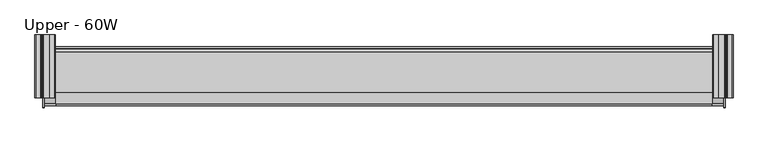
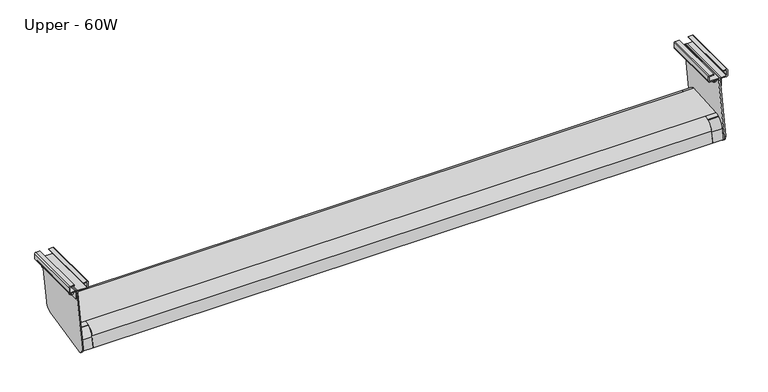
"""IFC4 building model written with IfcOpenShell, lengths in millimetres: furniture geometry, Steelcase Turnstone - Bivi - Accessories - Footshelf : Upper - 60W."""

from ifc_helpers import new_model, si_unit, point, frame, frame_2d, origin, place, context, project, spatial, polyline, circle_curve, trimmed, segment, composite_curve, outline, extrude, source, transform, mapped, element, save
from ifc_brep_helpers import plane_surface, cylinder_surface, revolved_surface, advanced_brep


def upper_60w_f62813fc(model_context):
    return source(origin(), model_context, "Body", "SolidModel", [
        advanced_brep(
        [(1498.5970434, -330.5631686, 405.2178221), (1498.5970434, -335.2717608, 378.5140687), (1498.5970434, -331.5529865, 377.9250727), (1498.5970434, -327.344341, 401.7934874), (1498.5970434, -313.6889042, 420.7007017), (1498.5970434, -315.8474061, 424.9938126), (25.4029566, -327.344341, 401.7934874), (25.4029566, -331.5529865, 377.9250727), (25.4029566, -335.2717608, 378.5140687), (25.4029566, -330.5631686, 405.2178221), (25.4029566, -315.8474061, 424.9938126), (25.4029566, -313.6889042, 420.7007017), (1524.0, -205.119935, 404.6518997), (1524.0, -209.1468112, 405.0751414), (0.0, -209.1468112, 405.0751414), (0.0, -205.119935, 404.6518997), (25.4029566, -203.2275084, 422.6571359), (1498.5970434, -203.2275084, 422.6571359), (1524.0, -203.2275084, 422.6571359), (0.0, -203.2275084, 422.6571359), (25.4029566, -213.9683536, 433.8305657), (1498.5970434, -213.9683536, 433.8305657), (0.0, -213.9683536, 433.8305657), (0.0, -305.2969526, 427.8633459), (25.4029566, -305.2969526, 427.8633459), (1498.5970434, -305.2969526, 427.8633459), (1524.0, -305.2969526, 427.8633459), (1524.0, -213.9683536, 433.8305657), (25.4029566, -302.7385546, 423.8470835), (1498.5970434, -302.7385546, 423.8470835), (0.0, -302.7385546, 423.8470835), (0.0, -215.2869038, 429.5609916), (25.4029566, -215.2869038, 429.5609916), (1498.5970434, -215.2869038, 429.5609916), (1524.0, -215.2869038, 429.5609916), (1524.0, -302.7385546, 423.8470835), (25.4029566, -207.4320707, 421.3898072), (1498.5970434, -207.4320707, 421.3898072), (0.0, -207.4320707, 421.3898072), (1524.0, -207.4320707, 421.3898072), (1524.0, -315.8474061, 424.9938126), (1524.0, -313.6889042, 420.7007017), (0.0, -313.6889042, 420.7007017), (0.0, -315.8474061, 424.9938126)],
        [
            (0, 1),
            (1, 2),
            (2, 3),
            (3, 4, circle_curve(frame((1498.5970434, -300.9940412, 397.1472186), z_axis=(-1.0, 0.0, 0.0), x_axis=(0.0, 1.0, 0.0)), 26.7567957)),
            (4, 5),
            (5, 0, circle_curve(frame((1498.5970434, -303.5056158, 400.4468455), z_axis=(1.0, 0.0, 0.0), x_axis=(0.0, 1.0, 0.0)), 27.4749592)),
            (6, 7),
            (7, 8),
            (8, 9),
            (9, 10, circle_curve(frame((25.4029566, -303.5056158, 400.4468455), z_axis=(-1.0, 0.0, 0.0), x_axis=(0.0, 1.0, 0.0)), 27.4749592)),
            (10, 11),
            (11, 6, circle_curve(frame((25.4029566, -300.9940412, 397.1472186), z_axis=(1.0, 0.0, 0.0), x_axis=(0.0, 1.0, 0.0)), 26.7567957)),
            (12, 13),
            (13, 14),
            (14, 15),
            (15, 12),
            (16, 17),
            (17, 18),
            (18, 12),
            (15, 19),
            (19, 16),
            (16, 20, circle_curve(frame((25.4029566, -213.3075275, 423.7165886), z_axis=(1.0, 0.0, 0.0), x_axis=(0.0, 1.0, 0.0)), 10.1355426)),
            (20, 21),
            (21, 17, circle_curve(frame((1498.5970434, -213.3075275, 423.7165886), z_axis=(-1.0, 0.0, 0.0), x_axis=(0.0, 1.0, 0.0)), 10.1355426)),
            (20, 22),
            (22, 23),
            (23, 24),
            (24, 25),
            (25, 26),
            (26, 27),
            (27, 21),
            (24, 10, circle_curve(frame((25.4029566, -303.5056158, 400.4468455), z_axis=(1.0, 0.0, 0.0), x_axis=(0.0, 1.0, 0.0)), 27.4749592)),
            (9, 0),
            (5, 25, circle_curve(frame((1498.5970434, -303.5056158, 400.4468455), z_axis=(-1.0, 0.0, 0.0), x_axis=(0.0, 1.0, 0.0)), 27.4749592)),
            (8, 1),
            (7, 2),
            (6, 3),
            (11, 28, circle_curve(frame((25.4029566, -300.9940412, 397.1472186), z_axis=(-1.0, 0.0, 0.0), x_axis=(0.0, 1.0, 0.0)), 26.7567957)),
            (28, 29),
            (29, 4, circle_curve(frame((1498.5970434, -300.9940412, 397.1472186), z_axis=(1.0, 0.0, 0.0), x_axis=(0.0, 1.0, 0.0)), 26.7567957)),
            (28, 30),
            (30, 31),
            (31, 32),
            (32, 33),
            (33, 34),
            (34, 35),
            (35, 29),
            (32, 36, circle_curve(frame((25.4029566, -214.8036384, 422.1645902), z_axis=(-1.0, 0.0, 0.0), x_axis=(0.0, 1.0, 0.0)), 7.4121724)),
            (36, 37),
            (37, 33, circle_curve(frame((1498.5970434, -214.8036384, 422.1645902), z_axis=(1.0, 0.0, 0.0), x_axis=(0.0, 1.0, 0.0)), 7.4121724)),
            (36, 38),
            (38, 14),
            (13, 39),
            (39, 37),
            (18, 27, circle_curve(frame((1524.0, -213.3075275, 423.7165886), z_axis=(1.0, 0.0, 0.0), x_axis=(0.0, 1.0, 0.0)), 10.1355426)),
            (26, 40, circle_curve(frame((1524.0, -303.5056158, 400.4468455), z_axis=(1.0, 0.0, 0.0), x_axis=(0.0, 1.0, 0.0)), 27.4749592)),
            (40, 41),
            (41, 35, circle_curve(frame((1524.0, -300.9940412, 397.1472186), z_axis=(-1.0, 0.0, 0.0), x_axis=(0.0, 1.0, 0.0)), 26.7567957)),
            (34, 39, circle_curve(frame((1524.0, -214.8036384, 422.1645902), z_axis=(-1.0, 0.0, 0.0), x_axis=(0.0, 1.0, 0.0)), 7.4121724)),
            (5, 40),
            (41, 4),
            (38, 31, circle_curve(frame((0.0, -214.8036384, 422.1645902), z_axis=(1.0, 0.0, 0.0), x_axis=(0.0, 1.0, 0.0)), 7.4121724)),
            (30, 42, circle_curve(frame((0.0, -300.9940412, 397.1472186), z_axis=(1.0, 0.0, 0.0), x_axis=(0.0, 1.0, 0.0)), 26.7567957)),
            (42, 43),
            (43, 23, circle_curve(frame((0.0, -303.5056158, 400.4468455), z_axis=(-1.0, 0.0, 0.0), x_axis=(0.0, 1.0, 0.0)), 27.4749592)),
            (22, 19, circle_curve(frame((0.0, -213.3075275, 423.7165886), z_axis=(-1.0, 0.0, 0.0), x_axis=(0.0, 1.0, 0.0)), 10.1355426)),
            (43, 10),
            (11, 42),
        ],
        [
            plane_surface(frame((1498.5970434, -205.119935, 404.6518997), z_axis=(1.0, 0.0, 0.0), x_axis=(0.0, 0.9945218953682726, -0.10452846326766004))),
            plane_surface(frame((25.4029566, -205.119935, 404.6518997), z_axis=(-1.0, 0.0, 0.0), x_axis=(0.0, -0.9945218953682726, 0.10452846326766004))),
            plane_surface(frame((1498.5970434, -209.1468112, 405.0751414), z_axis=(0.0, -0.10452846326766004, -0.9945218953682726), x_axis=(-1.0, 0.0, 0.0))),
            plane_surface(frame((1498.5970434, -205.119935, 404.6518997), z_axis=(0.0, 0.9945218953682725, -0.10452846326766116), x_axis=(-1.0, 0.0, 0.0))),
            cylinder_surface(frame((25.4029566, -213.3075275, 423.7165886), z_axis=(1.0, 0.0, 0.0), x_axis=(0.0, 1.0, 0.0)), 10.1355426),
            plane_surface(frame((1498.5970434, -213.9683536, 433.8305657), z_axis=(0.0, -0.06519889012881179, 0.9978722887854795), x_axis=(-1.0, 0.0, 0.0))),
            cylinder_surface(frame((25.4029566, -303.5056158, 400.4468455), z_axis=(1.0, 0.0, 0.0), x_axis=(0.0, 1.0, 0.0)), 27.4749592),
            plane_surface(frame((1498.5970434, -330.5631686, 405.2178221), z_axis=(0.0, -0.9848077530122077, 0.17364817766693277), x_axis=(-1.0, 0.0, 0.0))),
            plane_surface(frame((1498.5970434, -335.2717608, 378.5140687), z_axis=(0.0, -0.15643446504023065, -0.9876883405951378), x_axis=(-1.0, 0.0, 0.0))),
            plane_surface(frame((1498.5970434, -331.5529865, 377.9250727), z_axis=(0.0, 0.9848077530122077, -0.17364817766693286), x_axis=(-1.0, 0.0, 0.0))),
            revolved_surface(polyline([(25.4029566, -274.23724550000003, 397.1472186), (1498.5970434, -274.23724550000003, 397.1472186)]), (25.4029566, -300.9940412, 397.1472186), (-1.0, 0.0, 0.0)),
            plane_surface(frame((1498.5970434, -302.7385546, 423.8470835), z_axis=(0.0, 0.06519889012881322, -0.9978722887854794), x_axis=(-1.0, 0.0, 0.0))),
            revolved_surface(polyline([(25.4029566, -207.391466, 422.1645902), (1498.5970434, -207.391466, 422.1645902)]), (25.4029566, -214.8036384, 422.1645902), (-1.0, 0.0, 0.0)),
            plane_surface(frame((1498.5970434, -207.4320707, 421.3898072), z_axis=(0.0, -0.9945218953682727, 0.10452846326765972), x_axis=(-1.0, 0.0, 0.0))),
            plane_surface(frame((1524.0, -209.1468112, 405.0751414), z_axis=(1.0, 0.0, 0.0), x_axis=(0.0, -0.10452846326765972, -0.9945218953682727))),
            cylinder_surface(frame((1524.0, -213.3075275, 423.7165886), z_axis=(-1.0, 0.0, 0.0), x_axis=(0.0, 1.0, 0.0)), 10.1355426),
            cylinder_surface(frame((1524.0, -303.5056158, 400.4468455), z_axis=(-1.0, 0.0, 0.0), x_axis=(0.0, 1.0, 0.0)), 27.4749592),
            revolved_surface(polyline([(1524.0, -274.23724550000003, 397.1472186), (1498.5970434, -274.23724550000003, 397.1472186)]), (1524.0, -300.9940412, 397.1472186), (1.0, 0.0, 0.0)),
            revolved_surface(polyline([(1524.0, -207.391466, 422.1645902), (1498.5970434, -207.391466, 422.1645902)]), (1524.0, -214.8036384, 422.1645902), (1.0, 0.0, 0.0)),
            plane_surface(frame((1498.5970434, -313.6889042, 420.7007017), z_axis=(0.0, -0.8934305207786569, -0.44920140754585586), x_axis=(1.0, 0.0, 0.0))),
            plane_surface(frame((0.0, -205.119935, 404.6518997), z_axis=(-1.0, 0.0, 0.0), x_axis=(0.0, -0.9945218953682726, 0.10452846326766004))),
            cylinder_surface(frame((0.0, -213.3075275, 423.7165886), z_axis=(1.0, 0.0, 0.0), x_axis=(0.0, 1.0, 0.0)), 10.1355426),
            cylinder_surface(frame((0.0, -303.5056158, 400.4468455), z_axis=(1.0, 0.0, 0.0), x_axis=(0.0, 1.0, 0.0)), 27.4749592),
            revolved_surface(polyline([(0.0, -274.23724550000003, 397.1472186), (25.4029566, -274.23724550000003, 397.1472186)]), (0.0, -300.9940412, 397.1472186), (-1.0, 0.0, 0.0)),
            revolved_surface(polyline([(0.0, -207.391466, 422.1645902), (25.4029566, -207.391466, 422.1645902)]), (0.0, -214.8036384, 422.1645902), (-1.0, 0.0, 0.0)),
            plane_surface(frame((25.4029566, -315.8474061, 424.9938126), z_axis=(0.0, -0.8934305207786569, -0.44920140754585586), x_axis=(-1.0, 0.0, 0.0))),
        ],
        [
            (0, [[1, 2, 3, 4, 5, 6]]),
            (1, [[7, 8, 9, 10, 11, 12]]),
            (2, [[13, 14, 15, 16]]),
            (3, [[17, 18, 19, -16, 20, 21]]),
            (4, [[-17, 22, 23, 24]]),
            (5, [[-23, 25, 26, 27, 28, 29, 30, 31]]),
            (6, [[-28, 32, -10, 33, -6, 34]]),
            (7, [[-1, -33, -9, 35]]),
            (8, [[-2, -35, -8, 36]]),
            (9, [[-3, -36, -7, 37]]),
            (10, [[-37, -12, 38, 39, 40, -4]]),
            (11, [[-39, 41, 42, 43, 44, 45, 46, 47]]),
            (12, [[-44, 48, 49, 50]]),
            (13, [[-49, 51, 52, -14, 53, 54]]),
            (14, [[-13, -19, 55, -30, 56, 57, 58, -46, 59, -53]]),
            (15, [[-55, -18, -24, -31]]),
            (16, [[-56, -29, -34, 60]]),
            (17, [[-58, 61, -40, -47]]),
            (18, [[-59, -45, -50, -54]]),
            (19, [[-57, -60, -5, -61]]),
            (20, [[-52, 62, -42, 63, 64, 65, -26, 66, -20, -15]]),
            (21, [[-66, -25, -22, -21]]),
            (22, [[-65, 67, -32, -27]]),
            (23, [[-63, -41, -38, 68]]),
            (24, [[-62, -51, -48, -43]]),
            (25, [[-64, -68, -11, -67]]),
        ],
    ),
        advanced_brep(
        [(1529.4732124, -301.9506853, 510.0029956), (1529.4732124, -301.9506853, 515.6450881), (1529.4732124, -301.9506853, 504.3609031), (1532.8407408, -301.9506853, 515.6450881), (1532.8407408, -301.9506853, 504.3609031), (1532.8407408, -301.9506853, 513.3891575), (1532.8407408, -301.9506853, 506.6168337), (1535.8872105, -301.9506853, 513.3891575), (1535.8872105, -301.9506853, 506.6168337), (1535.8872105, -301.9506853, 510.0029956)],
        [
            (0, 1),
            (1, 2, circle_curve(frame((1529.4732124, -301.9506853, 510.0029956), z_axis=(-1.0, 0.0, 0.0), x_axis=(0.0, 0.0, 1.0)), 5.6420925)),
            (2, 0),
            (2, 1, circle_curve(frame((1529.4732124, -301.9506853, 510.0029956), z_axis=(-1.0, 0.0, 0.0), x_axis=(0.0, 0.0, 1.0)), 5.6420925)),
            (1, 3),
            (3, 4, circle_curve(frame((1532.8407408, -301.9506853, 510.0029956), z_axis=(-1.0, 0.0, 0.0), x_axis=(0.0, 0.0, 1.0)), 5.6420925)),
            (4, 2),
            (4, 3, circle_curve(frame((1532.8407408, -301.9506853, 510.0029956), z_axis=(-1.0, 0.0, 0.0), x_axis=(0.0, 0.0, 1.0)), 5.6420925)),
            (3, 5),
            (5, 6, circle_curve(frame((1532.8407408, -301.9506853, 510.0029956), z_axis=(-1.0, 0.0, 0.0), x_axis=(0.0, 0.0, 1.0)), 3.3861619)),
            (6, 4),
            (6, 5, circle_curve(frame((1532.8407408, -301.9506853, 510.0029956), z_axis=(-1.0, 0.0, 0.0), x_axis=(0.0, 0.0, 1.0)), 3.3861619)),
            (5, 7),
            (7, 8, circle_curve(frame((1535.8872105, -301.9506853, 510.0029956), z_axis=(-1.0, 0.0, 0.0), x_axis=(0.0, 0.0, 1.0)), 3.3861619)),
            (8, 6),
            (8, 7, circle_curve(frame((1535.8872105, -301.9506853, 510.0029956), z_axis=(-1.0, 0.0, 0.0), x_axis=(0.0, 0.0, 1.0)), 3.3861619)),
            (7, 9),
            (9, 8),
        ],
        [
            plane_surface(frame((1529.4732124, -301.9506853, 510.0029956), z_axis=(-1.0, 0.0, 0.0), x_axis=(0.0, 0.0, 1.0))),
            cylinder_surface(frame((1532.6802114, -301.9506853, 510.0029956), z_axis=(-1.0, 0.0, 0.0), x_axis=(0.0, 0.0, 1.0)), 5.6420925),
            plane_surface(frame((1532.8407408, -301.9506853, 510.0029956), z_axis=(1.0, 0.0, 0.0), x_axis=(0.0, 0.0, 1.0))),
            cylinder_surface(frame((1532.6802114, -301.9506853, 510.0029956), z_axis=(-1.0, 0.0, 0.0), x_axis=(0.0, 0.0, 1.0)), 3.3861619),
            plane_surface(frame((1535.8872105, -301.9506853, 510.0029956), z_axis=(1.0, 0.0, 0.0), x_axis=(0.0, 0.0, 1.0))),
        ],
        [
            (0, [[1, 2, 3]]),
            (0, [[-3, 4, -1]]),
            (1, [[-2, 5, 6, 7]]),
            (1, [[-4, -7, 8, -5]]),
            (2, [[-6, 9, 10, 11]]),
            (2, [[-8, -11, 12, -9]]),
            (3, [[-10, 13, 14, 15]]),
            (3, [[-12, -15, 16, -13]]),
            (4, [[-14, 17, 18]]),
            (4, [[-16, -18, -17]]),
        ],
    ),
        advanced_brep(
        [(1516.8372105, -301.9506853, 506.6168337), (1516.8372105, -301.9506853, 513.3891575), (1519.682967, -301.9506853, 513.3891575), (1519.682967, -301.9506853, 506.6168337), (1519.682967, -301.9506853, 515.6450881), (1519.682967, -301.9506853, 504.3609031), (1524.0, -301.9506853, 515.6450881), (1524.0, -301.9506853, 504.3609031), (1524.0, -301.9506853, 510.0029956), (1516.8372105, -301.9506853, 510.0029956)],
        [
            (0, 1, circle_curve(frame((1516.8372105, -301.9506853, 510.0029956), z_axis=(1.0, 0.0, 0.0), x_axis=(0.0, 0.0, 1.0)), 3.3861619)),
            (1, 2),
            (2, 3, circle_curve(frame((1519.682967, -301.9506853, 510.0029956), z_axis=(-1.0, 0.0, 0.0), x_axis=(0.0, 0.0, 1.0)), 3.3861619)),
            (3, 0),
            (1, 0, circle_curve(frame((1516.8372105, -301.9506853, 510.0029956), z_axis=(1.0, 0.0, 0.0), x_axis=(0.0, 0.0, 1.0)), 3.3861619)),
            (3, 2, circle_curve(frame((1519.682967, -301.9506853, 510.0029956), z_axis=(-1.0, 0.0, 0.0), x_axis=(0.0, 0.0, 1.0)), 3.3861619)),
            (2, 4),
            (4, 5, circle_curve(frame((1519.682967, -301.9506853, 510.0029956), z_axis=(-1.0, 0.0, 0.0), x_axis=(0.0, 0.0, 1.0)), 5.6420925)),
            (5, 3),
            (5, 4, circle_curve(frame((1519.682967, -301.9506853, 510.0029956), z_axis=(-1.0, 0.0, 0.0), x_axis=(0.0, 0.0, 1.0)), 5.6420925)),
            (4, 6),
            (6, 7, circle_curve(frame((1524.0, -301.9506853, 510.0029956), z_axis=(-1.0, 0.0, 0.0), x_axis=(0.0, 0.0, 1.0)), 5.6420925)),
            (7, 5),
            (7, 6, circle_curve(frame((1524.0, -301.9506853, 510.0029956), z_axis=(-1.0, 0.0, 0.0), x_axis=(0.0, 0.0, 1.0)), 5.6420925)),
            (6, 8),
            (8, 7),
            (9, 1),
            (0, 9),
        ],
        [
            cylinder_surface(frame((1532.6802114, -301.9506853, 510.0029956), z_axis=(-1.0, 0.0, 0.0), x_axis=(0.0, 0.0, 1.0)), 3.3861619),
            plane_surface(frame((1519.682967, -301.9506853, 510.0029956), z_axis=(-1.0, 0.0, 0.0), x_axis=(0.0, 0.0, 1.0))),
            cylinder_surface(frame((1532.6802114, -301.9506853, 510.0029956), z_axis=(-1.0, 0.0, 0.0), x_axis=(0.0, 0.0, 1.0)), 5.6420925),
            plane_surface(frame((1524.0, -301.9506853, 510.0029956), z_axis=(1.0, 0.0, 0.0), x_axis=(0.0, 0.0, 1.0))),
            plane_surface(frame((1516.8372105, -301.9506853, 510.0029956), z_axis=(-1.0, 0.0, 0.0), x_axis=(0.0, 0.0, 1.0))),
        ],
        [
            (0, [[1, 2, 3, 4]]),
            (0, [[5, -4, 6, -2]]),
            (1, [[-3, 7, 8, 9]]),
            (1, [[-6, -9, 10, -7]]),
            (2, [[-8, 11, 12, 13]]),
            (2, [[-10, -13, 14, -11]]),
            (3, [[-12, 15, 16]]),
            (3, [[-14, -16, -15]]),
            (4, [[17, -1, 18]]),
            (4, [[-18, -5, -17]]),
        ],
    ),
        advanced_brep(
        [(1529.4732124, -191.690625, 510.0029956), (1529.4732124, -191.690625, 515.6450881), (1529.4732124, -191.690625, 504.3609031), (1532.8407408, -191.690625, 515.6450881), (1532.8407408, -191.690625, 504.3609031), (1532.8407408, -191.690625, 513.3891575), (1532.8407408, -191.690625, 506.6168337), (1535.8872105, -191.690625, 513.3891575), (1535.8872105, -191.690625, 506.6168337), (1535.8872105, -191.690625, 510.0029956)],
        [
            (0, 1),
            (1, 2, circle_curve(frame((1529.4732124, -191.690625, 510.0029956), z_axis=(-1.0, 0.0, 0.0), x_axis=(0.0, 0.0, 1.0)), 5.6420925)),
            (2, 0),
            (2, 1, circle_curve(frame((1529.4732124, -191.690625, 510.0029956), z_axis=(-1.0, 0.0, 0.0), x_axis=(0.0, 0.0, 1.0)), 5.6420925)),
            (1, 3),
            (3, 4, circle_curve(frame((1532.8407408, -191.690625, 510.0029956), z_axis=(-1.0, 0.0, 0.0), x_axis=(0.0, 0.0, 1.0)), 5.6420925)),
            (4, 2),
            (4, 3, circle_curve(frame((1532.8407408, -191.690625, 510.0029956), z_axis=(-1.0, 0.0, 0.0), x_axis=(0.0, 0.0, 1.0)), 5.6420925)),
            (3, 5),
            (5, 6, circle_curve(frame((1532.8407408, -191.690625, 510.0029956), z_axis=(-1.0, 0.0, 0.0), x_axis=(0.0, 0.0, 1.0)), 3.3861619)),
            (6, 4),
            (6, 5, circle_curve(frame((1532.8407408, -191.690625, 510.0029956), z_axis=(-1.0, 0.0, 0.0), x_axis=(0.0, 0.0, 1.0)), 3.3861619)),
            (5, 7),
            (7, 8, circle_curve(frame((1535.8872105, -191.690625, 510.0029956), z_axis=(-1.0, 0.0, 0.0), x_axis=(0.0, 0.0, 1.0)), 3.3861619)),
            (8, 6),
            (8, 7, circle_curve(frame((1535.8872105, -191.690625, 510.0029956), z_axis=(-1.0, 0.0, 0.0), x_axis=(0.0, 0.0, 1.0)), 3.3861619)),
            (7, 9),
            (9, 8),
        ],
        [
            plane_surface(frame((1529.4732124, -191.690625, 510.0029956), z_axis=(-1.0, 0.0, 0.0), x_axis=(0.0, 0.0, 1.0))),
            cylinder_surface(frame((1532.6802114, -191.690625, 510.0029956), z_axis=(-1.0, 0.0, 0.0), x_axis=(0.0, 0.0, 1.0)), 5.6420925),
            plane_surface(frame((1532.8407408, -191.690625, 510.0029956), z_axis=(1.0, 0.0, 0.0), x_axis=(0.0, 0.0, 1.0))),
            cylinder_surface(frame((1532.6802114, -191.690625, 510.0029956), z_axis=(-1.0, 0.0, 0.0), x_axis=(0.0, 0.0, 1.0)), 3.3861619),
            plane_surface(frame((1535.8872105, -191.690625, 510.0029956), z_axis=(1.0, 0.0, 0.0), x_axis=(0.0, 0.0, 1.0))),
        ],
        [
            (0, [[1, 2, 3]]),
            (0, [[-3, 4, -1]]),
            (1, [[-2, 5, 6, 7]]),
            (1, [[-4, -7, 8, -5]]),
            (2, [[-6, 9, 10, 11]]),
            (2, [[-8, -11, 12, -9]]),
            (3, [[-10, 13, 14, 15]]),
            (3, [[-12, -15, 16, -13]]),
            (4, [[-14, 17, 18]]),
            (4, [[-16, -18, -17]]),
        ],
    ),
        advanced_brep(
        [(1516.8372105, -191.690625, 506.6168337), (1516.8372105, -191.690625, 513.3891575), (1519.682967, -191.690625, 513.3891575), (1519.682967, -191.690625, 506.6168337), (1519.682967, -191.690625, 515.6450881), (1519.682967, -191.690625, 504.3609031), (1524.0, -191.690625, 515.6450881), (1524.0, -191.690625, 504.3609031), (1524.0, -191.690625, 510.0029956), (1516.8372105, -191.690625, 510.0029956)],
        [
            (0, 1, circle_curve(frame((1516.8372105, -191.690625, 510.0029956), z_axis=(1.0, 0.0, 0.0), x_axis=(0.0, 0.0, 1.0)), 3.3861619)),
            (1, 2),
            (2, 3, circle_curve(frame((1519.682967, -191.690625, 510.0029956), z_axis=(-1.0, 0.0, 0.0), x_axis=(0.0, 0.0, 1.0)), 3.3861619)),
            (3, 0),
            (1, 0, circle_curve(frame((1516.8372105, -191.690625, 510.0029956), z_axis=(1.0, 0.0, 0.0), x_axis=(0.0, 0.0, 1.0)), 3.3861619)),
            (3, 2, circle_curve(frame((1519.682967, -191.690625, 510.0029956), z_axis=(-1.0, 0.0, 0.0), x_axis=(0.0, 0.0, 1.0)), 3.3861619)),
            (2, 4),
            (4, 5, circle_curve(frame((1519.682967, -191.690625, 510.0029956), z_axis=(-1.0, 0.0, 0.0), x_axis=(0.0, 0.0, 1.0)), 5.6420925)),
            (5, 3),
            (5, 4, circle_curve(frame((1519.682967, -191.690625, 510.0029956), z_axis=(-1.0, 0.0, 0.0), x_axis=(0.0, 0.0, 1.0)), 5.6420925)),
            (4, 6),
            (6, 7, circle_curve(frame((1524.0, -191.690625, 510.0029956), z_axis=(-1.0, 0.0, 0.0), x_axis=(0.0, 0.0, 1.0)), 5.6420925)),
            (7, 5),
            (7, 6, circle_curve(frame((1524.0, -191.690625, 510.0029956), z_axis=(-1.0, 0.0, 0.0), x_axis=(0.0, 0.0, 1.0)), 5.6420925)),
            (6, 8),
            (8, 7),
            (9, 1),
            (0, 9),
        ],
        [
            cylinder_surface(frame((1532.6802114, -191.690625, 510.0029956), z_axis=(-1.0, 0.0, 0.0), x_axis=(0.0, 0.0, 1.0)), 3.3861619),
            plane_surface(frame((1519.682967, -191.690625, 510.0029956), z_axis=(-1.0, 0.0, 0.0), x_axis=(0.0, 0.0, 1.0))),
            cylinder_surface(frame((1532.6802114, -191.690625, 510.0029956), z_axis=(-1.0, 0.0, 0.0), x_axis=(0.0, 0.0, 1.0)), 5.6420925),
            plane_surface(frame((1524.0, -191.690625, 510.0029956), z_axis=(1.0, 0.0, 0.0), x_axis=(0.0, 0.0, 1.0))),
            plane_surface(frame((1516.8372105, -191.690625, 510.0029956), z_axis=(-1.0, 0.0, 0.0), x_axis=(0.0, 0.0, 1.0))),
        ],
        [
            (0, [[1, 2, 3, 4]]),
            (0, [[5, -4, 6, -2]]),
            (1, [[-3, 7, 8, 9]]),
            (1, [[-6, -9, 10, -7]]),
            (2, [[-8, 11, 12, 13]]),
            (2, [[-10, -13, 14, -11]]),
            (3, [[-12, 15, 16]]),
            (3, [[-14, -16, -15]]),
            (4, [[17, -1, 18]]),
            (4, [[-18, -5, -17]]),
        ],
    ),
        extrude(outline(composite_curve([segment(trimmed(circle_curve(frame_2d((533.265026, 1502.0265851)), 2.523055), [point((535.788081, 1502.0265851))], [point((533.265026, 1499.5035301))], False, "CARTESIAN"), True, "CONTINUOUS"), segment(polyline([(533.265026, 1499.5035301), (521.4761406, 1499.5035301)]), True, "CONTINUOUS"), segment(trimmed(circle_curve(frame_2d((521.4761406, 1502.1914802)), 2.6879501), [point((521.4761406, 1499.5035301))], [point((518.7881906, 1502.1914802))], False, "CARTESIAN"), True, "CONTINUOUS"), segment(polyline([(518.7881906, 1502.1914802), (518.7881906, 1523.2999972)]), True, "CONTINUOUS"), segment(trimmed(circle_curve(frame_2d((518.0881878, 1523.2999972)), 0.7000028), [point((518.7881906, 1523.2999972))], [point((518.0881878, 1524.0))], True, "CARTESIAN"), True, "CONTINUOUS"), segment(polyline([(518.0881878, 1524.0), (515.0719399, 1524.0), (515.0719399, 1527.0464697), (518.7454283, 1527.0464697)]), True, "CONTINUOUS"), segment(trimmed(circle_curve(frame_2d((518.7454283, 1524.7238852)), 2.3225846), [point((518.7454283, 1527.0464697))], [point((521.0680129, 1524.7238852))], False, "CARTESIAN"), True, "CONTINUOUS"), segment(polyline([(521.0680129, 1524.7238852), (521.0680129, 1502.3692892)]), True, "CONTINUOUS"), segment(trimmed(circle_curve(frame_2d((521.6545506, 1502.3692892)), 0.5865377), [point((521.0680129, 1502.3692892))], [point((521.6545506, 1501.7827515))], True, "CARTESIAN"), True, "CONTINUOUS"), segment(polyline([(521.6545506, 1501.7827515), (532.9425114, 1501.7827515)]), True, "CONTINUOUS"), segment(trimmed(circle_curve(frame_2d((532.9425114, 1502.3482277)), 0.5654762), [point((532.9425114, 1501.7827515))], [point((533.5079876, 1502.3482277))], True, "CARTESIAN"), True, "CONTINUOUS"), segment(polyline([(533.5079876, 1502.3482277), (533.5079876, 1511.502507), (535.788081, 1511.502507), (535.788081, 1502.0265851)]), True, "CONTINUOUS")], self_intersect=False)), frame((0.0, -317.2132069, 0.0), z_axis=(0.0, 1.0, 0.0), x_axis=(0.0, 0.0, 1.0)), (0.0, 0.0, 1.0), 141.0013584),
        extrude(outline(composite_curve([segment(polyline([(501.0778087, 1529.4732124), (518.4068629, 1529.4732124)]), True, "CONTINUOUS"), segment(trimmed(circle_curve(frame_2d((518.4068629, 1530.2339697)), 0.7607573), [point((518.4068629, 1529.4732124))], [point((519.1676202, 1530.2339697))], True, "CARTESIAN"), True, "CONTINUOUS"), segment(polyline([(519.1676202, 1530.2339697), (519.1676202, 1542.0089232)]), True, "CONTINUOUS"), segment(trimmed(circle_curve(frame_2d((522.1157014, 1542.0089232)), 2.9480812), [point((519.1676202, 1542.0089232))], [point((522.1157014, 1544.9570044))], False, "CARTESIAN"), True, "CONTINUOUS"), segment(polyline([(522.1157014, 1544.9570044), (535.0550756, 1544.9570044)]), True, "CONTINUOUS"), segment(trimmed(circle_curve(frame_2d((535.0550756, 1542.3402478)), 2.6167566), [point((535.0550756, 1544.9570044))], [point((537.6718323, 1542.3402478))], False, "CARTESIAN"), True, "CONTINUOUS"), segment(polyline([(537.6718323, 1542.3402478), (537.6718323, 1532.9100653), (535.7577049, 1532.9100653), (535.7577049, 1542.3442428)]), True, "CONTINUOUS"), segment(trimmed(circle_curve(frame_2d((535.0548558, 1542.3442428)), 0.7028491), [point((535.7577049, 1542.3442428))], [point((535.0548558, 1543.0470919))], True, "CARTESIAN"), True, "CONTINUOUS"), segment(polyline([(535.0548558, 1543.0470919), (521.8638245, 1543.0470919)]), True, "CONTINUOUS"), segment(trimmed(circle_curve(frame_2d((521.8638245, 1542.2511713)), 0.7959206), [point((521.8638245, 1543.0470919))], [point((521.0679039, 1542.2511713))], True, "CARTESIAN"), True, "CONTINUOUS"), segment(polyline([(521.0679039, 1542.2511713), (521.0679039, 1529.8562852)]), True, "CONTINUOUS"), segment(trimmed(circle_curve(frame_2d((518.7731745, 1529.8562852)), 2.2947294), [point((521.0679039, 1529.8562852))], [point((518.7731745, 1527.5615559))], False, "CARTESIAN"), True, "CONTINUOUS"), segment(polyline([(518.7731745, 1527.5615559), (501.0778087, 1527.5615559), (501.0778087, 1529.4732124)]), True, "CONTINUOUS")], self_intersect=False)), frame((0.0, -317.2132069, 0.0), z_axis=(0.0, 1.0, 0.0), x_axis=(0.0, 0.0, 1.0)), (0.0, 0.0, 1.0), 141.0013584),
        extrude(outline(composite_curve([segment(polyline([(-332.8870202, 377.9585379), (-335.4134875, 378.4040222), (-331.061012, 403.0881373)]), True, "CONTINUOUS"), segment(trimmed(circle_curve(frame_2d((-302.0885172, 397.9795048)), 29.4194423), [point((-331.061012, 403.0881373))], [point((-316.4419518, 423.6598961))], False, "CARTESIAN"), True, "CONTINUOUS"), segment(polyline([(-316.4419518, 423.6598961), (-315.4242191, 421.635696)]), True, "CONTINUOUS"), segment(trimmed(circle_curve(frame_2d((-303.1510302, 399.1681269)), 25.601227), [point((-315.4242191, 421.635696))], [point((-328.3633171, 403.6137333))], True, "CARTESIAN"), True, "CONTINUOUS"), segment(polyline([(-328.3633171, 403.6137333), (-332.8870202, 377.9585379)]), True, "CONTINUOUS")], self_intersect=False)), frame((1498.5970434, 0.0, 0.0), z_axis=(1.0, 0.0, 0.0), x_axis=(0.0, 1.0, 0.0)), (0.0, 0.0, 1.0), 25.4029566),
        extrude(outline(polyline([(-303.3054343, 421.3984403), (-303.3054343, 423.8059931), (-214.6009362, 429.6985325), (-214.6009362, 427.2909798), (-303.3054343, 421.3984403)])), frame((1498.5970434, 0.0, 0.0), z_axis=(1.0, 0.0, 0.0), x_axis=(0.0, 1.0, 0.0)), (0.0, 0.0, 1.0), 25.4029566),
        extrude(outline(composite_curve([segment(polyline([(-214.2035703, 427.3173763), (-216.6878663, 400.722597), (-325.7409976, 376.5767837), (-332.8285151, 378.2903368), (-328.3633171, 403.6137333), (-321.5882945, 402.7837592)]), True, "CONTINUOUS"), segment(trimmed(circle_curve(frame_2d((-319.9743829, 415.9580098)), 13.2727386), [point((-321.5882945, 402.7837592))], [point((-309.2742208, 408.1048499))], True, "CARTESIAN"), True, "CONTINUOUS"), segment(trimmed(circle_curve(frame_2d((-337.3047231, 428.6772501)), 34.7697097), [point((-309.2742208, 408.1048499))], [point((-303.2021583, 421.8987706))], True, "CARTESIAN"), True, "CONTINUOUS"), segment(polyline([(-303.2021583, 421.8987706), (-303.2021583, 423.8127456), (-214.3542538, 429.621972), (-214.2035703, 427.3173763)]), True, "CONTINUOUS")], self_intersect=False)), frame((1520.1910742, 0.0, 0.0), z_axis=(1.0, 0.0, 0.0), x_axis=(0.0, 1.0, 0.0)), (0.0, 0.0, 1.0), 3.8089258),
        extrude(outline(composite_curve([segment(polyline([(-339.6051595, 388.0962158), (-317.2229753, 515.0719399), (-176.2212331, 515.0719399), (-193.1137238, 419.4135346)]), True, "CONTINUOUS"), segment(trimmed(circle_curve(frame_2d((-217.5321339, 423.7256258)), 24.7962272), [point((-193.1137238, 419.4135346))], [point((-214.3362657, 399.1362113))], False, "CARTESIAN"), True, "CONTINUOUS"), segment(polyline([(-214.3362657, 399.1362113), (-215.7114724, 400.9390809), (-216.6878663, 400.722597), (-216.1951638, 398.5045638), (-325.1763024, 374.3327471), (-325.6691503, 376.558665), (-326.5433702, 376.7700256), (-326.7852802, 375.407307)]), True, "CONTINUOUS"), segment(trimmed(circle_curve(frame_2d((-329.210562, 376.5665039)), 2.6880717), [point((-326.7852802, 375.407307))], [point((-329.677198, 373.9192449))], False, "CARTESIAN"), True, "CONTINUOUS"), segment(trimmed(circle_curve(frame_2d((-327.5526933, 385.9717111)), 12.2382786), [point((-329.677198, 373.9192449))], [point((-339.6051595, 388.0962158))], False, "CARTESIAN"), True, "CONTINUOUS")], self_intersect=False)), frame((1524.0, 0.0, 0.0), z_axis=(1.0, 0.0, 0.0), x_axis=(0.0, 1.0, 0.0)), (0.0, 0.0, 1.0), 3.0464697),
        advanced_brep(
        [(-5.4732124, -301.9506853, 504.3609031), (-5.4732124, -301.9506853, 515.6450881), (-5.4732124, -301.9506853, 510.0029956), (-8.8407408, -301.9506853, 504.3609031), (-8.8407408, -301.9506853, 515.6450881), (-8.8407408, -301.9506853, 506.6168337), (-8.8407408, -301.9506853, 513.3891575), (-11.8872105, -301.9506853, 506.6168337), (-11.8872105, -301.9506853, 513.3891575), (-11.8872105, -301.9506853, 510.0029956)],
        [
            (0, 1, circle_curve(frame((-5.4732124, -301.9506853, 510.0029956), z_axis=(1.0, 0.0, 0.0), x_axis=(0.0, 0.0, 1.0)), 5.6420925)),
            (1, 2),
            (2, 0),
            (1, 0, circle_curve(frame((-5.4732124, -301.9506853, 510.0029956), z_axis=(1.0, 0.0, 0.0), x_axis=(0.0, 0.0, 1.0)), 5.6420925)),
            (3, 4, circle_curve(frame((-8.8407408, -301.9506853, 510.0029956), z_axis=(1.0, 0.0, 0.0), x_axis=(0.0, 0.0, 1.0)), 5.6420925)),
            (4, 1),
            (0, 3),
            (4, 3, circle_curve(frame((-8.8407408, -301.9506853, 510.0029956), z_axis=(1.0, 0.0, 0.0), x_axis=(0.0, 0.0, 1.0)), 5.6420925)),
            (5, 6, circle_curve(frame((-8.8407408, -301.9506853, 510.0029956), z_axis=(1.0, 0.0, 0.0), x_axis=(0.0, 0.0, 1.0)), 3.3861619)),
            (6, 4),
            (3, 5),
            (6, 5, circle_curve(frame((-8.8407408, -301.9506853, 510.0029956), z_axis=(1.0, 0.0, 0.0), x_axis=(0.0, 0.0, 1.0)), 3.3861619)),
            (7, 8, circle_curve(frame((-11.8872105, -301.9506853, 510.0029956), z_axis=(1.0, 0.0, 0.0), x_axis=(0.0, 0.0, 1.0)), 3.3861619)),
            (8, 6),
            (5, 7),
            (8, 7, circle_curve(frame((-11.8872105, -301.9506853, 510.0029956), z_axis=(1.0, 0.0, 0.0), x_axis=(0.0, 0.0, 1.0)), 3.3861619)),
            (9, 8),
            (7, 9),
        ],
        [
            plane_surface(frame((-5.4732124, -301.9506853, 510.0029956), z_axis=(1.0, 0.0, 0.0), x_axis=(0.0, 0.0, 1.0))),
            cylinder_surface(frame((-8.6802114, -301.9506853, 510.0029956), z_axis=(-1.0, 0.0, 0.0), x_axis=(0.0, 0.0, 1.0)), 5.6420925),
            plane_surface(frame((-8.8407408, -301.9506853, 510.0029956), z_axis=(-1.0, 0.0, 0.0), x_axis=(0.0, 0.0, 1.0))),
            cylinder_surface(frame((-8.6802114, -301.9506853, 510.0029956), z_axis=(-1.0, 0.0, 0.0), x_axis=(0.0, 0.0, 1.0)), 3.3861619),
            plane_surface(frame((-11.8872105, -301.9506853, 510.0029956), z_axis=(-1.0, 0.0, 0.0), x_axis=(0.0, 0.0, 1.0))),
        ],
        [
            (0, [[1, 2, 3]]),
            (0, [[4, -3, -2]]),
            (1, [[5, 6, -1, 7]]),
            (1, [[8, -7, -4, -6]]),
            (2, [[9, 10, -5, 11]]),
            (2, [[12, -11, -8, -10]]),
            (3, [[13, 14, -9, 15]]),
            (3, [[16, -15, -12, -14]]),
            (4, [[17, -13, 18]]),
            (4, [[-18, -16, -17]]),
        ],
    ),
        advanced_brep(
        [(4.317033, -301.9506853, 506.6168337), (4.317033, -301.9506853, 513.3891575), (7.1627895, -301.9506853, 513.3891575), (7.1627895, -301.9506853, 506.6168337), (4.317033, -301.9506853, 504.3609031), (4.317033, -301.9506853, 515.6450881), (0.0, -301.9506853, 504.3609031), (0.0, -301.9506853, 515.6450881), (0.0, -301.9506853, 510.0029956), (7.1627895, -301.9506853, 510.0029956)],
        [
            (0, 1, circle_curve(frame((4.317033, -301.9506853, 510.0029956), z_axis=(1.0, 0.0, 0.0), x_axis=(0.0, 0.0, 1.0)), 3.3861619)),
            (1, 2),
            (2, 3, circle_curve(frame((7.1627895, -301.9506853, 510.0029956), z_axis=(-1.0, 0.0, 0.0), x_axis=(0.0, 0.0, 1.0)), 3.3861619)),
            (3, 0),
            (1, 0, circle_curve(frame((4.317033, -301.9506853, 510.0029956), z_axis=(1.0, 0.0, 0.0), x_axis=(0.0, 0.0, 1.0)), 3.3861619)),
            (3, 2, circle_curve(frame((7.1627895, -301.9506853, 510.0029956), z_axis=(-1.0, 0.0, 0.0), x_axis=(0.0, 0.0, 1.0)), 3.3861619)),
            (4, 5, circle_curve(frame((4.317033, -301.9506853, 510.0029956), z_axis=(1.0, 0.0, 0.0), x_axis=(0.0, 0.0, 1.0)), 5.6420925)),
            (5, 1),
            (0, 4),
            (5, 4, circle_curve(frame((4.317033, -301.9506853, 510.0029956), z_axis=(1.0, 0.0, 0.0), x_axis=(0.0, 0.0, 1.0)), 5.6420925)),
            (6, 7, circle_curve(frame((0.0, -301.9506853, 510.0029956), z_axis=(1.0, 0.0, 0.0), x_axis=(0.0, 0.0, 1.0)), 5.6420925)),
            (7, 5),
            (4, 6),
            (7, 6, circle_curve(frame((0.0, -301.9506853, 510.0029956), z_axis=(1.0, 0.0, 0.0), x_axis=(0.0, 0.0, 1.0)), 5.6420925)),
            (8, 7),
            (6, 8),
            (2, 9),
            (9, 3),
        ],
        [
            cylinder_surface(frame((-8.6802114, -301.9506853, 510.0029956), z_axis=(-1.0, 0.0, 0.0), x_axis=(0.0, 0.0, 1.0)), 3.3861619),
            plane_surface(frame((4.317033, -301.9506853, 510.0029956), z_axis=(1.0, 0.0, 0.0), x_axis=(0.0, 0.0, 1.0))),
            cylinder_surface(frame((-8.6802114, -301.9506853, 510.0029956), z_axis=(-1.0, 0.0, 0.0), x_axis=(0.0, 0.0, 1.0)), 5.6420925),
            plane_surface(frame((0.0, -301.9506853, 510.0029956), z_axis=(-1.0, 0.0, 0.0), x_axis=(0.0, 0.0, 1.0))),
            plane_surface(frame((7.1627895, -301.9506853, 510.0029956), z_axis=(1.0, 0.0, 0.0), x_axis=(0.0, 0.0, 1.0))),
        ],
        [
            (0, [[1, 2, 3, 4]]),
            (0, [[5, -4, 6, -2]]),
            (1, [[7, 8, -1, 9]]),
            (1, [[10, -9, -5, -8]]),
            (2, [[11, 12, -7, 13]]),
            (2, [[14, -13, -10, -12]]),
            (3, [[15, -11, 16]]),
            (3, [[-16, -14, -15]]),
            (4, [[-3, 17, 18]]),
            (4, [[-6, -18, -17]]),
        ],
    ),
        advanced_brep(
        [(-5.4732124, -191.690625, 504.3609031), (-5.4732124, -191.690625, 515.6450881), (-5.4732124, -191.690625, 510.0029956), (-8.8407408, -191.690625, 504.3609031), (-8.8407408, -191.690625, 515.6450881), (-8.8407408, -191.690625, 506.6168337), (-8.8407408, -191.690625, 513.3891575), (-11.8872105, -191.690625, 506.6168337), (-11.8872105, -191.690625, 513.3891575), (-11.8872105, -191.690625, 510.0029956)],
        [
            (0, 1, circle_curve(frame((-5.4732124, -191.690625, 510.0029956), z_axis=(1.0, 0.0, 0.0), x_axis=(0.0, 0.0, 1.0)), 5.6420925)),
            (1, 2),
            (2, 0),
            (1, 0, circle_curve(frame((-5.4732124, -191.690625, 510.0029956), z_axis=(1.0, 0.0, 0.0), x_axis=(0.0, 0.0, 1.0)), 5.6420925)),
            (3, 4, circle_curve(frame((-8.8407408, -191.690625, 510.0029956), z_axis=(1.0, 0.0, 0.0), x_axis=(0.0, 0.0, 1.0)), 5.6420925)),
            (4, 1),
            (0, 3),
            (4, 3, circle_curve(frame((-8.8407408, -191.690625, 510.0029956), z_axis=(1.0, 0.0, 0.0), x_axis=(0.0, 0.0, 1.0)), 5.6420925)),
            (5, 6, circle_curve(frame((-8.8407408, -191.690625, 510.0029956), z_axis=(1.0, 0.0, 0.0), x_axis=(0.0, 0.0, 1.0)), 3.3861619)),
            (6, 4),
            (3, 5),
            (6, 5, circle_curve(frame((-8.8407408, -191.690625, 510.0029956), z_axis=(1.0, 0.0, 0.0), x_axis=(0.0, 0.0, 1.0)), 3.3861619)),
            (7, 8, circle_curve(frame((-11.8872105, -191.690625, 510.0029956), z_axis=(1.0, 0.0, 0.0), x_axis=(0.0, 0.0, 1.0)), 3.3861619)),
            (8, 6),
            (5, 7),
            (8, 7, circle_curve(frame((-11.8872105, -191.690625, 510.0029956), z_axis=(1.0, 0.0, 0.0), x_axis=(0.0, 0.0, 1.0)), 3.3861619)),
            (9, 8),
            (7, 9),
        ],
        [
            plane_surface(frame((-5.4732124, -191.690625, 510.0029956), z_axis=(1.0, 0.0, 0.0), x_axis=(0.0, 0.0, 1.0))),
            cylinder_surface(frame((-8.6802114, -191.690625, 510.0029956), z_axis=(-1.0, 0.0, 0.0), x_axis=(0.0, 0.0, 1.0)), 5.6420925),
            plane_surface(frame((-8.8407408, -191.690625, 510.0029956), z_axis=(-1.0, 0.0, 0.0), x_axis=(0.0, 0.0, 1.0))),
            cylinder_surface(frame((-8.6802114, -191.690625, 510.0029956), z_axis=(-1.0, 0.0, 0.0), x_axis=(0.0, 0.0, 1.0)), 3.3861619),
            plane_surface(frame((-11.8872105, -191.690625, 510.0029956), z_axis=(-1.0, 0.0, 0.0), x_axis=(0.0, 0.0, 1.0))),
        ],
        [
            (0, [[1, 2, 3]]),
            (0, [[4, -3, -2]]),
            (1, [[5, 6, -1, 7]]),
            (1, [[8, -7, -4, -6]]),
            (2, [[9, 10, -5, 11]]),
            (2, [[12, -11, -8, -10]]),
            (3, [[13, 14, -9, 15]]),
            (3, [[16, -15, -12, -14]]),
            (4, [[17, -13, 18]]),
            (4, [[-18, -16, -17]]),
        ],
    ),
        advanced_brep(
        [(4.317033, -191.690625, 506.6168337), (4.317033, -191.690625, 513.3891575), (7.1627895, -191.690625, 513.3891575), (7.1627895, -191.690625, 506.6168337), (4.317033, -191.690625, 504.3609031), (4.317033, -191.690625, 515.6450881), (0.0, -191.690625, 504.3609031), (0.0, -191.690625, 515.6450881), (0.0, -191.690625, 510.0029956), (7.1627895, -191.690625, 510.0029956)],
        [
            (0, 1, circle_curve(frame((4.317033, -191.690625, 510.0029956), z_axis=(1.0, 0.0, 0.0), x_axis=(0.0, 0.0, 1.0)), 3.3861619)),
            (1, 2),
            (2, 3, circle_curve(frame((7.1627895, -191.690625, 510.0029956), z_axis=(-1.0, 0.0, 0.0), x_axis=(0.0, 0.0, 1.0)), 3.3861619)),
            (3, 0),
            (1, 0, circle_curve(frame((4.317033, -191.690625, 510.0029956), z_axis=(1.0, 0.0, 0.0), x_axis=(0.0, 0.0, 1.0)), 3.3861619)),
            (3, 2, circle_curve(frame((7.1627895, -191.690625, 510.0029956), z_axis=(-1.0, 0.0, 0.0), x_axis=(0.0, 0.0, 1.0)), 3.3861619)),
            (4, 5, circle_curve(frame((4.317033, -191.690625, 510.0029956), z_axis=(1.0, 0.0, 0.0), x_axis=(0.0, 0.0, 1.0)), 5.6420925)),
            (5, 1),
            (0, 4),
            (5, 4, circle_curve(frame((4.317033, -191.690625, 510.0029956), z_axis=(1.0, 0.0, 0.0), x_axis=(0.0, 0.0, 1.0)), 5.6420925)),
            (6, 7, circle_curve(frame((0.0, -191.690625, 510.0029956), z_axis=(1.0, 0.0, 0.0), x_axis=(0.0, 0.0, 1.0)), 5.6420925)),
            (7, 5),
            (4, 6),
            (7, 6, circle_curve(frame((0.0, -191.690625, 510.0029956), z_axis=(1.0, 0.0, 0.0), x_axis=(0.0, 0.0, 1.0)), 5.6420925)),
            (8, 7),
            (6, 8),
            (2, 9),
            (9, 3),
        ],
        [
            cylinder_surface(frame((-8.6802114, -191.690625, 510.0029956), z_axis=(-1.0, 0.0, 0.0), x_axis=(0.0, 0.0, 1.0)), 3.3861619),
            plane_surface(frame((4.317033, -191.690625, 510.0029956), z_axis=(1.0, 0.0, 0.0), x_axis=(0.0, 0.0, 1.0))),
            cylinder_surface(frame((-8.6802114, -191.690625, 510.0029956), z_axis=(-1.0, 0.0, 0.0), x_axis=(0.0, 0.0, 1.0)), 5.6420925),
            plane_surface(frame((0.0, -191.690625, 510.0029956), z_axis=(-1.0, 0.0, 0.0), x_axis=(0.0, 0.0, 1.0))),
            plane_surface(frame((7.1627895, -191.690625, 510.0029956), z_axis=(1.0, 0.0, 0.0), x_axis=(0.0, 0.0, 1.0))),
        ],
        [
            (0, [[1, 2, 3, 4]]),
            (0, [[5, -4, 6, -2]]),
            (1, [[7, 8, -1, 9]]),
            (1, [[10, -9, -5, -8]]),
            (2, [[11, 12, -7, 13]]),
            (2, [[14, -13, -10, -12]]),
            (3, [[15, -11, 16]]),
            (3, [[-16, -14, -15]]),
            (4, [[-3, 17, 18]]),
            (4, [[-6, -18, -17]]),
        ],
    ),
        extrude(outline(composite_curve([segment(polyline([(535.788081, 21.9734149), (535.788081, 12.497493), (533.5079876, 12.497493), (533.5079876, 21.6517723)]), True, "CONTINUOUS"), segment(trimmed(circle_curve(frame_2d((532.9425114, 21.6517723)), 0.5654762), [point((533.5079876, 21.6517723))], [point((532.9425114, 22.2172485))], True, "CARTESIAN"), True, "CONTINUOUS"), segment(polyline([(532.9425114, 22.2172485), (521.6545506, 22.2172485)]), True, "CONTINUOUS"), segment(trimmed(circle_curve(frame_2d((521.6545506, 21.6307108)), 0.5865377), [point((521.6545506, 22.2172485))], [point((521.0680129, 21.6307108))], True, "CARTESIAN"), True, "CONTINUOUS"), segment(polyline([(521.0680129, 21.6307108), (521.0680129, -0.7238852)]), True, "CONTINUOUS"), segment(trimmed(circle_curve(frame_2d((518.7454283, -0.7238852)), 2.3225846), [point((521.0680129, -0.7238852))], [point((518.7454283, -3.0464697))], False, "CARTESIAN"), True, "CONTINUOUS"), segment(polyline([(518.7454283, -3.0464697), (515.0719399, -3.0464697), (515.0719399, 0.0), (518.0881878, 0.0)]), True, "CONTINUOUS"), segment(trimmed(circle_curve(frame_2d((518.0881878, 0.7000028)), 0.7000028), [point((518.0881878, 0.0))], [point((518.7881906, 0.7000028))], True, "CARTESIAN"), True, "CONTINUOUS"), segment(polyline([(518.7881906, 0.7000028), (518.7881906, 21.8085198)]), True, "CONTINUOUS"), segment(trimmed(circle_curve(frame_2d((521.4761406, 21.8085198)), 2.6879501), [point((518.7881906, 21.8085198))], [point((521.4761406, 24.4964699))], False, "CARTESIAN"), True, "CONTINUOUS"), segment(polyline([(521.4761406, 24.4964699), (533.265026, 24.4964699)]), True, "CONTINUOUS"), segment(trimmed(circle_curve(frame_2d((533.265026, 21.9734149)), 2.523055), [point((533.265026, 24.4964699))], [point((535.788081, 21.9734149))], False, "CARTESIAN"), True, "CONTINUOUS")], self_intersect=False)), frame((0.0, -317.2132069, 0.0), z_axis=(0.0, 1.0, 0.0), x_axis=(0.0, 0.0, 1.0)), (0.0, 0.0, 1.0), 141.0013584),
        extrude(outline(composite_curve([segment(polyline([(501.0778087, -5.4732124), (501.0778087, -3.5615559), (518.7731745, -3.5615559)]), True, "CONTINUOUS"), segment(trimmed(circle_curve(frame_2d((518.7731745, -5.8562852)), 2.2947294), [point((518.7731745, -3.5615559))], [point((521.0679039, -5.8562852))], False, "CARTESIAN"), True, "CONTINUOUS"), segment(polyline([(521.0679039, -5.8562852), (521.0679039, -18.2511713)]), True, "CONTINUOUS"), segment(trimmed(circle_curve(frame_2d((521.8638245, -18.2511713)), 0.7959206), [point((521.0679039, -18.2511713))], [point((521.8638245, -19.0470919))], True, "CARTESIAN"), True, "CONTINUOUS"), segment(polyline([(521.8638245, -19.0470919), (535.0548558, -19.0470919)]), True, "CONTINUOUS"), segment(trimmed(circle_curve(frame_2d((535.0548558, -18.3442428)), 0.7028491), [point((535.0548558, -19.0470919))], [point((535.7577049, -18.3442428))], True, "CARTESIAN"), True, "CONTINUOUS"), segment(polyline([(535.7577049, -18.3442428), (535.7577049, -8.9100653), (537.6718323, -8.9100653), (537.6718323, -18.3402478)]), True, "CONTINUOUS"), segment(trimmed(circle_curve(frame_2d((535.0550756, -18.3402478)), 2.6167566), [point((537.6718323, -18.3402478))], [point((535.0550756, -20.9570044))], False, "CARTESIAN"), True, "CONTINUOUS"), segment(polyline([(535.0550756, -20.9570044), (522.1157014, -20.9570044)]), True, "CONTINUOUS"), segment(trimmed(circle_curve(frame_2d((522.1157014, -18.0089232)), 2.9480812), [point((522.1157014, -20.9570044))], [point((519.1676202, -18.0089232))], False, "CARTESIAN"), True, "CONTINUOUS"), segment(polyline([(519.1676202, -18.0089232), (519.1676202, -6.2339697)]), True, "CONTINUOUS"), segment(trimmed(circle_curve(frame_2d((518.4068629, -6.2339697)), 0.7607573), [point((519.1676202, -6.2339697))], [point((518.4068629, -5.4732124))], True, "CARTESIAN"), True, "CONTINUOUS"), segment(polyline([(518.4068629, -5.4732124), (501.0778087, -5.4732124)]), True, "CONTINUOUS")], self_intersect=False)), frame((0.0, -317.2132069, 0.0), z_axis=(0.0, 1.0, 0.0), x_axis=(0.0, 0.0, 1.0)), (0.0, 0.0, 1.0), 141.0013584),
        extrude(outline(composite_curve([segment(polyline([(-332.8870202, 377.9585379), (-335.4134875, 378.4040222), (-331.061012, 403.0881373)]), True, "CONTINUOUS"), segment(trimmed(circle_curve(frame_2d((-302.0885172, 397.9795048)), 29.4194423), [point((-331.061012, 403.0881373))], [point((-316.4419518, 423.6598961))], False, "CARTESIAN"), True, "CONTINUOUS"), segment(polyline([(-316.4419518, 423.6598961), (-315.4242191, 421.635696)]), True, "CONTINUOUS"), segment(trimmed(circle_curve(frame_2d((-303.1510302, 399.1681269)), 25.601227), [point((-315.4242191, 421.635696))], [point((-328.3633171, 403.6137333))], True, "CARTESIAN"), True, "CONTINUOUS"), segment(polyline([(-328.3633171, 403.6137333), (-332.8870202, 377.9585379)]), True, "CONTINUOUS")], self_intersect=False)), frame((0.0, 0.0, 0.0), z_axis=(1.0, 0.0, 0.0), x_axis=(0.0, 1.0, 0.0)), (0.0, 0.0, 1.0), 25.4029566),
        extrude(outline(polyline([(-303.3054343, 421.3984403), (-303.3054343, 423.8059931), (-214.6009362, 429.6985325), (-214.6009362, 427.2909798), (-303.3054343, 421.3984403)])), frame((0.0, 0.0, 0.0), z_axis=(1.0, 0.0, 0.0), x_axis=(0.0, 1.0, 0.0)), (0.0, 0.0, 1.0), 25.4029566),
        extrude(outline(composite_curve([segment(polyline([(-214.2035703, 427.3173763), (-216.6878663, 400.722597), (-325.7409976, 376.5767837), (-332.8285151, 378.2903368), (-328.3633171, 403.6137333), (-321.5882945, 402.7837592)]), True, "CONTINUOUS"), segment(trimmed(circle_curve(frame_2d((-319.9743829, 415.9580098)), 13.2727386), [point((-321.5882945, 402.7837592))], [point((-309.2742208, 408.1048499))], True, "CARTESIAN"), True, "CONTINUOUS"), segment(trimmed(circle_curve(frame_2d((-337.3047231, 428.6772501)), 34.7697097), [point((-309.2742208, 408.1048499))], [point((-303.2021583, 421.8987706))], True, "CARTESIAN"), True, "CONTINUOUS"), segment(polyline([(-303.2021583, 421.8987706), (-303.2021583, 423.8127456), (-214.3542538, 429.621972), (-214.2035703, 427.3173763)]), True, "CONTINUOUS")], self_intersect=False)), frame((0.0, 0.0, 0.0), z_axis=(1.0, 0.0, 0.0), x_axis=(0.0, 1.0, 0.0)), (0.0, 0.0, 1.0), 3.8089258),
        extrude(outline(composite_curve([segment(polyline([(-339.6051595, 388.0962158), (-317.2229753, 515.0719399), (-176.2212331, 515.0719399), (-193.1137238, 419.4135346)]), True, "CONTINUOUS"), segment(trimmed(circle_curve(frame_2d((-217.5321339, 423.7256258)), 24.7962272), [point((-193.1137238, 419.4135346))], [point((-214.3362657, 399.1362113))], False, "CARTESIAN"), True, "CONTINUOUS"), segment(polyline([(-214.3362657, 399.1362113), (-215.7114724, 400.9390809), (-216.6878663, 400.722597), (-216.1951638, 398.5045638), (-325.1763024, 374.3327471), (-325.6691503, 376.558665), (-326.5433702, 376.7700256), (-326.7852802, 375.407307)]), True, "CONTINUOUS"), segment(trimmed(circle_curve(frame_2d((-329.210562, 376.5665039)), 2.6880717), [point((-326.7852802, 375.407307))], [point((-329.677198, 373.9192449))], False, "CARTESIAN"), True, "CONTINUOUS"), segment(trimmed(circle_curve(frame_2d((-327.5526933, 385.9717111)), 12.2382786), [point((-329.677198, 373.9192449))], [point((-339.6051595, 388.0962158))], False, "CARTESIAN"), True, "CONTINUOUS")], self_intersect=False)), frame((-3.0464697, 0.0, 0.0), z_axis=(1.0, 0.0, 0.0), x_axis=(0.0, 1.0, 0.0)), (0.0, 0.0, 1.0), 3.0464697),
    ])


if __name__ == "__main__":
    model = new_model("IFC4")
    model_context = context("Model", 3, world=origin())
    ifc_project = project(units=[si_unit("LENGTHUNIT", "METRE", prefix="MILLI")], contexts=[model_context])
    site = spatial("IfcSite", under=ifc_project)
    building = spatial("IfcBuilding", under=site)
    placement = place(None, origin())
    upper_60w_shape = upper_60w_f62813fc(model_context)
    element("IfcFurniture", 1, ObjectType="Steelcase Turnstone - Bivi - Accessories - Footshelf : Upper - 60W", at=placement, inside=building, context=model_context, shape_type="MappedRepresentation", body=[
        mapped(upper_60w_shape, transform((0.0, 0.0, 0.0), x_axis=(1.0, 0.0, 0.0), y_axis=(0.0, 1.0, 0.0), z_axis=(0.0, 0.0, 1.0))),
    ])
    save(model, "model.ifc")
